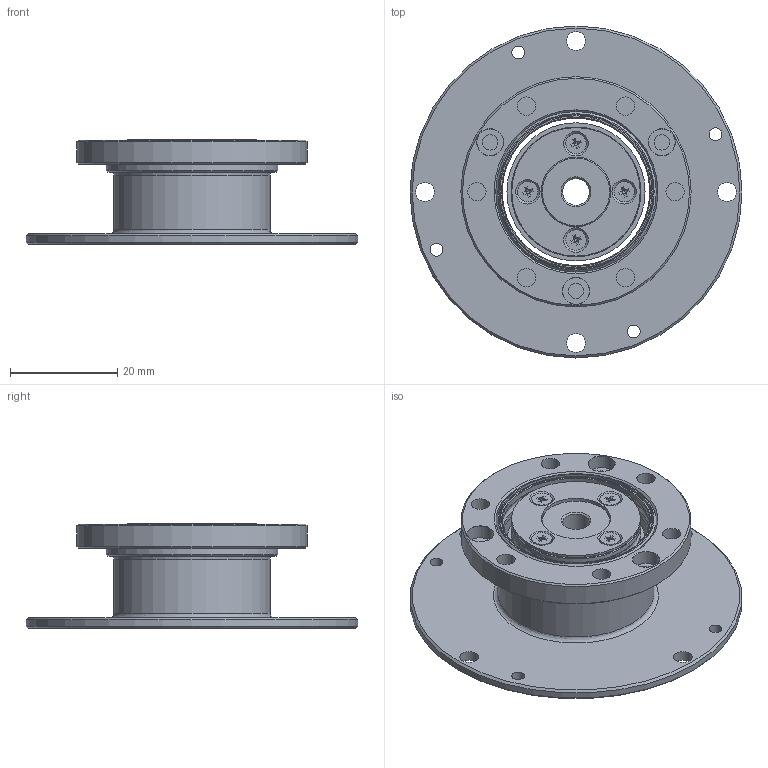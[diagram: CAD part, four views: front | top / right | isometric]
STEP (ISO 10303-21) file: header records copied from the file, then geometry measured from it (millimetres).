
FILE_DESCRIPTION (( 'STEP AP203' ), '1' );
FILE_NAME ('LHS-11-XXX-P-I.STEP', '2023-07-12T01:31:41', ( '' ), ( '' ), 'SwSTEP 2.0', 'SolidWorks 2013', '' );
FILE_SCHEMA (( 'CONFIG_CONTROL_DESIGN' ));
Length unit declared in the file: millimetre
Products named in the file (1): LHS-11-XXX-P-I
Bounding box: 62 x 62 x 19.6 mm (x, y, z)
Volume: 9165.6 mm3; surface area: 13108.7 mm2
Topology: 2 solids, 10 shells, 291 faces, 716 edges, 462 vertices
Faces by surface type: plane 117, cylinder 63, bspline 57, cone 54
Full cylindrical faces by diameter (mm): 1.6 x4, 2 x4, 2.4 x8, 2.5 x2, 2.9 x3, 3.4 x6, 3.5 x4, 3.8 x4, 5 x4, 11 x1, 13 x2, 22 x2, 22.1 x1, 22.8 x1, 23 x1, 23.8 x1, 24 x1, 24.2 x2, 25.8 x1, 27.56 x2, 28.8 x2, 29.2 x1, 30 x2, 32 x1, 40 x1, 43 x1, 62 x1
Entity records: 11739 total; most frequent: CARTESIAN_POINT 5759, DIRECTION 1142, ORIENTED_EDGE 1112, EDGE_CURVE 556, AXIS2_PLACEMENT_3D 499, EDGE_LOOP 478, VERTEX_POINT 414, FACE_OUTER_BOUND 319
